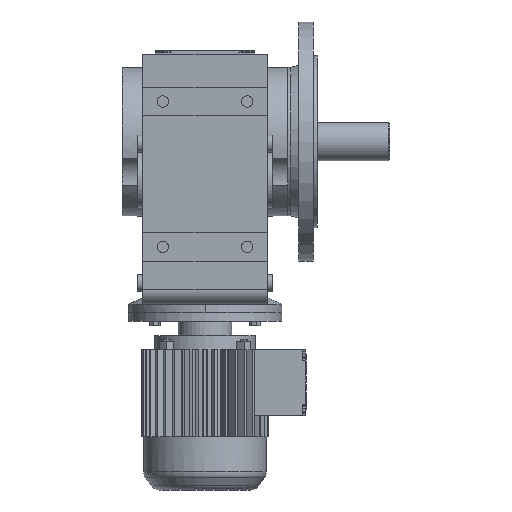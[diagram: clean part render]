
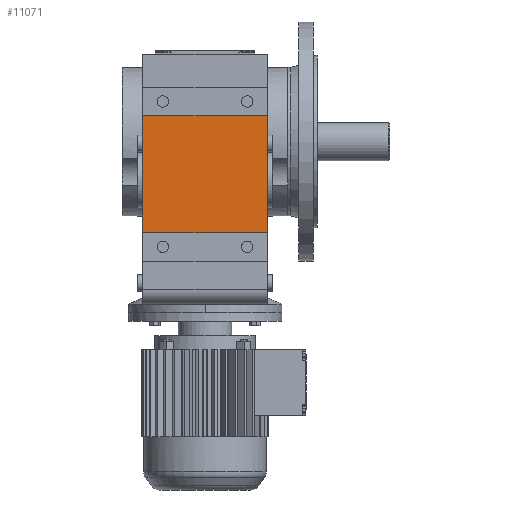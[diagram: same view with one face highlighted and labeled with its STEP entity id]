
A CAD part, front view. The second image highlights one B-rep face of the part: STEP entity #11071.
In plain terms, the highlighted planar face has unit normal (0, -1, 0).
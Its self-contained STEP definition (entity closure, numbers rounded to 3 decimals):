
#2109 = PLANE('',#2110);
#2110 = AXIS2_PLACEMENT_3D('',#2111,#2112,#2113);
#2111 = CARTESIAN_POINT('',(-65.,-119.1,-154.05));
#2112 = DIRECTION('',(-1.,0.,0.));
#2113 = DIRECTION('',(0.,0.,1.));
#5957 = VERTEX_POINT('',#5958);
#5958 = CARTESIAN_POINT('',(-65.,-135.1,-95.));
#5972 = PLANE('',#5973);
#5973 = AXIS2_PLACEMENT_3D('',#5974,#5975,#5976);
#5974 = CARTESIAN_POINT('',(-65.,-135.1,-95.));
#5975 = DIRECTION('',(0.,0.,1.));
#5976 = DIRECTION('',(1.,0.,0.));
#5984 = EDGE_CURVE('',#5985,#5957,#5987,.T.);
#5985 = VERTEX_POINT('',#5986);
#5986 = CARTESIAN_POINT('',(-65.,-135.1,27.));
#5987 = SURFACE_CURVE('',#5988,(#5992,#5999),.PCURVE_S1.);
#5988 = LINE('',#5989,#5990);
#5989 = CARTESIAN_POINT('',(-65.,-135.1,27.));
#5990 = VECTOR('',#5991,1.);
#5991 = DIRECTION('',(0.,0.,-1.));
#5992 = PCURVE('',#2109,#5993);
#5993 = DEFINITIONAL_REPRESENTATION('',(#5994),#5998);
#5994 = LINE('',#5995,#5996);
#5995 = CARTESIAN_POINT('',(181.05,-16.));
#5996 = VECTOR('',#5997,1.);
#5997 = DIRECTION('',(-1.,0.));
#5998 = ( GEOMETRIC_REPRESENTATION_CONTEXT(2) 
PARAMETRIC_REPRESENTATION_CONTEXT() REPRESENTATION_CONTEXT('2D SPACE',''
  ) );
#5999 = PCURVE('',#6000,#6005);
#6000 = PLANE('',#6001);
#6001 = AXIS2_PLACEMENT_3D('',#6002,#6003,#6004);
#6002 = CARTESIAN_POINT('',(-65.,-135.1,27.));
#6003 = DIRECTION('',(0.,-1.,0.));
#6004 = DIRECTION('',(0.,0.,-1.));
#6005 = DEFINITIONAL_REPRESENTATION('',(#6006),#6010);
#6006 = LINE('',#6007,#6008);
#6007 = CARTESIAN_POINT('',(0.,0.));
#6008 = VECTOR('',#6009,1.);
#6009 = DIRECTION('',(1.,0.));
#6010 = ( GEOMETRIC_REPRESENTATION_CONTEXT(2) 
PARAMETRIC_REPRESENTATION_CONTEXT() REPRESENTATION_CONTEXT('2D SPACE',''
  ) );
#6028 = PLANE('',#6029);
#6029 = AXIS2_PLACEMENT_3D('',#6030,#6031,#6032);
#6030 = CARTESIAN_POINT('',(-65.,-135.1,27.));
#6031 = DIRECTION('',(0.,0.,-1.));
#6032 = DIRECTION('',(0.,1.,0.));
#9940 = PLANE('',#9941);
#9941 = AXIS2_PLACEMENT_3D('',#9942,#9943,#9944);
#9942 = CARTESIAN_POINT('',(65.,-119.1,-154.05));
#9943 = DIRECTION('',(-1.,0.,0.));
#9944 = DIRECTION('',(0.,0.,1.));
#11071 = ADVANCED_FACE('',(#11072),#6000,.T.);
#11072 = FACE_BOUND('',#11073,.T.);
#11073 = EDGE_LOOP('',(#11074,#11097,#11120,#11141));
#11074 = ORIENTED_EDGE('',*,*,#11075,.T.);
#11075 = EDGE_CURVE('',#5957,#11076,#11078,.T.);
#11076 = VERTEX_POINT('',#11077);
#11077 = CARTESIAN_POINT('',(65.,-135.1,-95.));
#11078 = SURFACE_CURVE('',#11079,(#11083,#11090),.PCURVE_S1.);
#11079 = LINE('',#11080,#11081);
#11080 = CARTESIAN_POINT('',(-65.,-135.1,-95.));
#11081 = VECTOR('',#11082,1.);
#11082 = DIRECTION('',(1.,0.,0.));
#11083 = PCURVE('',#6000,#11084);
#11084 = DEFINITIONAL_REPRESENTATION('',(#11085),#11089);
#11085 = LINE('',#11086,#11087);
#11086 = CARTESIAN_POINT('',(122.,0.));
#11087 = VECTOR('',#11088,1.);
#11088 = DIRECTION('',(0.,1.));
#11089 = ( GEOMETRIC_REPRESENTATION_CONTEXT(2) 
PARAMETRIC_REPRESENTATION_CONTEXT() REPRESENTATION_CONTEXT('2D SPACE',''
  ) );
#11090 = PCURVE('',#5972,#11091);
#11091 = DEFINITIONAL_REPRESENTATION('',(#11092),#11096);
#11092 = LINE('',#11093,#11094);
#11093 = CARTESIAN_POINT('',(0.,0.));
#11094 = VECTOR('',#11095,1.);
#11095 = DIRECTION('',(1.,0.));
#11096 = ( GEOMETRIC_REPRESENTATION_CONTEXT(2) 
PARAMETRIC_REPRESENTATION_CONTEXT() REPRESENTATION_CONTEXT('2D SPACE',''
  ) );
#11097 = ORIENTED_EDGE('',*,*,#11098,.F.);
#11098 = EDGE_CURVE('',#11099,#11076,#11101,.T.);
#11099 = VERTEX_POINT('',#11100);
#11100 = CARTESIAN_POINT('',(65.,-135.1,27.));
#11101 = SURFACE_CURVE('',#11102,(#11106,#11113),.PCURVE_S1.);
#11102 = LINE('',#11103,#11104);
#11103 = CARTESIAN_POINT('',(65.,-135.1,27.));
#11104 = VECTOR('',#11105,1.);
#11105 = DIRECTION('',(0.,0.,-1.));
#11106 = PCURVE('',#6000,#11107);
#11107 = DEFINITIONAL_REPRESENTATION('',(#11108),#11112);
#11108 = LINE('',#11109,#11110);
#11109 = CARTESIAN_POINT('',(0.,130.));
#11110 = VECTOR('',#11111,1.);
#11111 = DIRECTION('',(1.,0.));
#11112 = ( GEOMETRIC_REPRESENTATION_CONTEXT(2) 
PARAMETRIC_REPRESENTATION_CONTEXT() REPRESENTATION_CONTEXT('2D SPACE',''
  ) );
#11113 = PCURVE('',#9940,#11114);
#11114 = DEFINITIONAL_REPRESENTATION('',(#11115),#11119);
#11115 = LINE('',#11116,#11117);
#11116 = CARTESIAN_POINT('',(181.05,-16.));
#11117 = VECTOR('',#11118,1.);
#11118 = DIRECTION('',(-1.,0.));
#11119 = ( GEOMETRIC_REPRESENTATION_CONTEXT(2) 
PARAMETRIC_REPRESENTATION_CONTEXT() REPRESENTATION_CONTEXT('2D SPACE',''
  ) );
#11120 = ORIENTED_EDGE('',*,*,#11121,.F.);
#11121 = EDGE_CURVE('',#5985,#11099,#11122,.T.);
#11122 = SURFACE_CURVE('',#11123,(#11127,#11134),.PCURVE_S1.);
#11123 = LINE('',#11124,#11125);
#11124 = CARTESIAN_POINT('',(-65.,-135.1,27.));
#11125 = VECTOR('',#11126,1.);
#11126 = DIRECTION('',(1.,0.,0.));
#11127 = PCURVE('',#6000,#11128);
#11128 = DEFINITIONAL_REPRESENTATION('',(#11129),#11133);
#11129 = LINE('',#11130,#11131);
#11130 = CARTESIAN_POINT('',(0.,0.));
#11131 = VECTOR('',#11132,1.);
#11132 = DIRECTION('',(0.,1.));
#11133 = ( GEOMETRIC_REPRESENTATION_CONTEXT(2) 
PARAMETRIC_REPRESENTATION_CONTEXT() REPRESENTATION_CONTEXT('2D SPACE',''
  ) );
#11134 = PCURVE('',#6028,#11135);
#11135 = DEFINITIONAL_REPRESENTATION('',(#11136),#11140);
#11136 = LINE('',#11137,#11138);
#11137 = CARTESIAN_POINT('',(0.,0.));
#11138 = VECTOR('',#11139,1.);
#11139 = DIRECTION('',(0.,1.));
#11140 = ( GEOMETRIC_REPRESENTATION_CONTEXT(2) 
PARAMETRIC_REPRESENTATION_CONTEXT() REPRESENTATION_CONTEXT('2D SPACE',''
  ) );
#11141 = ORIENTED_EDGE('',*,*,#5984,.T.);
